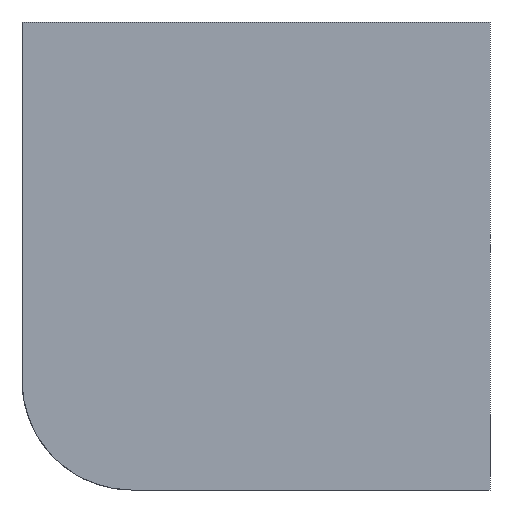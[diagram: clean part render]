
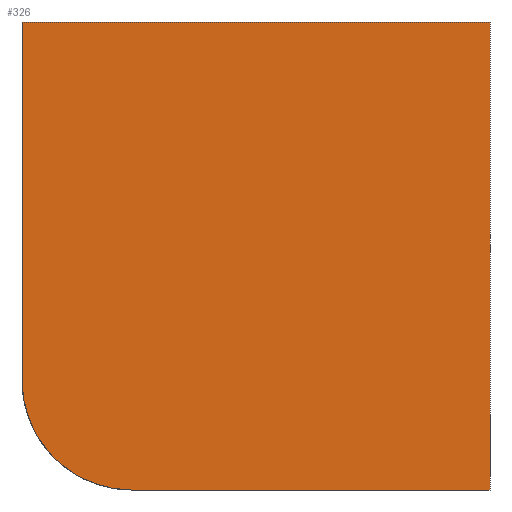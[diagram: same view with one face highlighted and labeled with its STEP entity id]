
A CAD part, front view. The second image highlights one B-rep face of the part: STEP entity #326.
In plain terms, the highlighted planar face has unit normal (0, -1, 0).
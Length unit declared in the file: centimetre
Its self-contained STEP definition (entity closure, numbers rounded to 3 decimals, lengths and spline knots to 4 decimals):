
#40 = EDGE_CURVE ( 'NONE', #102, #517, #508, .T. ) ;
#43 = VECTOR ( 'NONE', #148, 100. ) ;
#49 = DIRECTION ( 'NONE',  ( 0., 0., -1. ) ) ;
#57 = ORIENTED_EDGE ( 'NONE', *, *, #163, .F. ) ;
#78 = AXIS2_PLACEMENT_3D ( 'NONE', #290, #432, #339 ) ;
#97 = LINE ( 'NONE', #559, #43 ) ;
#102 = VERTEX_POINT ( 'NONE', #107 ) ;
#104 = VECTOR ( 'NONE', #479, 100. ) ;
#107 = CARTESIAN_POINT ( 'NONE',  ( 1000., 0., 1000. ) ) ;
#109 = VERTEX_POINT ( 'NONE', #584 ) ;
#110 = CARTESIAN_POINT ( 'NONE',  ( 0., 0., 1000. ) ) ;
#141 = VECTOR ( 'NONE', #343, 100. ) ;
#142 = DIRECTION ( 'NONE',  ( 0., 1., 0. ) ) ;
#148 = DIRECTION ( 'NONE',  ( 1., 0., 0. ) ) ;
#163 = EDGE_CURVE ( 'NONE', #408, #102, #97, .T. ) ;
#182 = VERTEX_POINT ( 'NONE', #563 ) ;
#187 = CARTESIAN_POINT ( 'NONE',  ( 1000., 0., 1000. ) ) ;
#203 = EDGE_CURVE ( 'NONE', #182, #109, #410, .T. ) ;
#206 = CARTESIAN_POINT ( 'NONE',  ( 0., 0., 1000. ) ) ;
#221 = CARTESIAN_POINT ( 'NONE',  ( 1000., 0., 0. ) ) ;
#231 = PLANE ( 'NONE',  #296 ) ;
#243 = EDGE_CURVE ( 'NONE', #109, #517, #525, .T. ) ;
#290 = CARTESIAN_POINT ( 'NONE',  ( 234.3922, 0., 234.3922 ) ) ;
#293 = CARTESIAN_POINT ( 'NONE',  ( 0., 0., 0. ) ) ;
#296 = AXIS2_PLACEMENT_3D ( 'NONE', #110, #142, #333 ) ;
#326 = ADVANCED_FACE ( 'NONE', ( #561 ), #231, .F. ) ;
#333 = DIRECTION ( 'NONE',  ( 0., 0., 1. ) ) ;
#339 = DIRECTION ( 'NONE',  ( 0., 0., 1. ) ) ;
#343 = DIRECTION ( 'NONE',  ( 0., 0., -1. ) ) ;
#408 = VERTEX_POINT ( 'NONE', #415 ) ;
#410 = CIRCLE ( 'NONE', #78, 234.3922 ) ;
#415 = CARTESIAN_POINT ( 'NONE',  ( 0., 0., 1000. ) ) ;
#432 = DIRECTION ( 'NONE',  ( 0., -1., 0. ) ) ;
#434 = ORIENTED_EDGE ( 'NONE', *, *, #40, .F. ) ;
#446 = EDGE_LOOP ( 'NONE', ( #481, #576, #448, #434, #57 ) ) ;
#448 = ORIENTED_EDGE ( 'NONE', *, *, #243, .T. ) ;
#479 = DIRECTION ( 'NONE',  ( 1., 0., 0. ) ) ;
#480 = LINE ( 'NONE', #206, #141 ) ;
#481 = ORIENTED_EDGE ( 'NONE', *, *, #580, .T. ) ;
#508 = LINE ( 'NONE', #187, #534 ) ;
#517 = VERTEX_POINT ( 'NONE', #221 ) ;
#525 = LINE ( 'NONE', #293, #104 ) ;
#534 = VECTOR ( 'NONE', #49, 100. ) ;
#559 = CARTESIAN_POINT ( 'NONE',  ( 0., 0., 1000. ) ) ;
#561 = FACE_OUTER_BOUND ( 'NONE', #446, .T. ) ;
#563 = CARTESIAN_POINT ( 'NONE',  ( 0., 0., 234.3922 ) ) ;
#576 = ORIENTED_EDGE ( 'NONE', *, *, #203, .T. ) ;
#580 = EDGE_CURVE ( 'NONE', #408, #182, #480, .T. ) ;
#584 = CARTESIAN_POINT ( 'NONE',  ( 234.3922, 0., 0. ) ) ;
